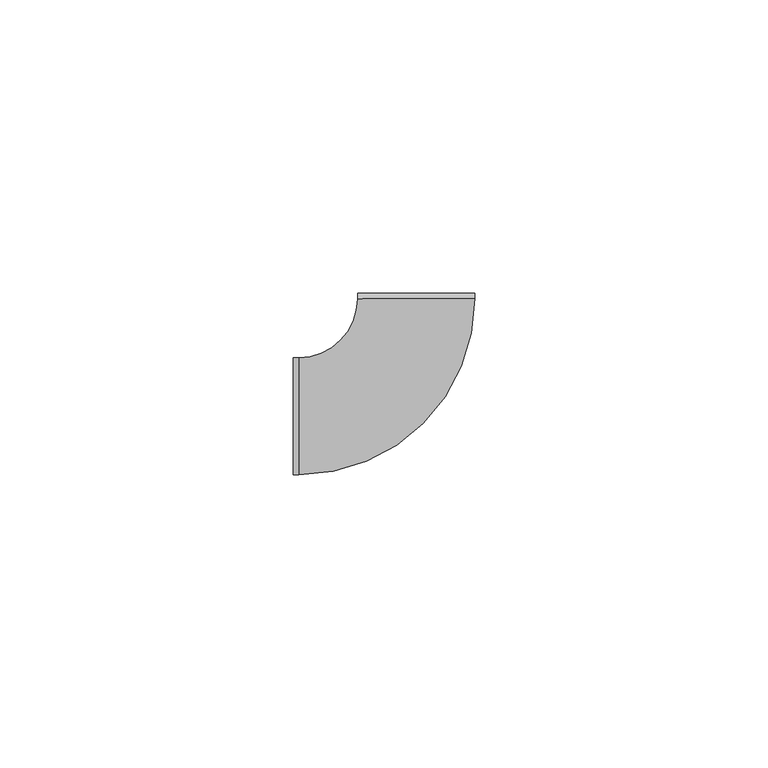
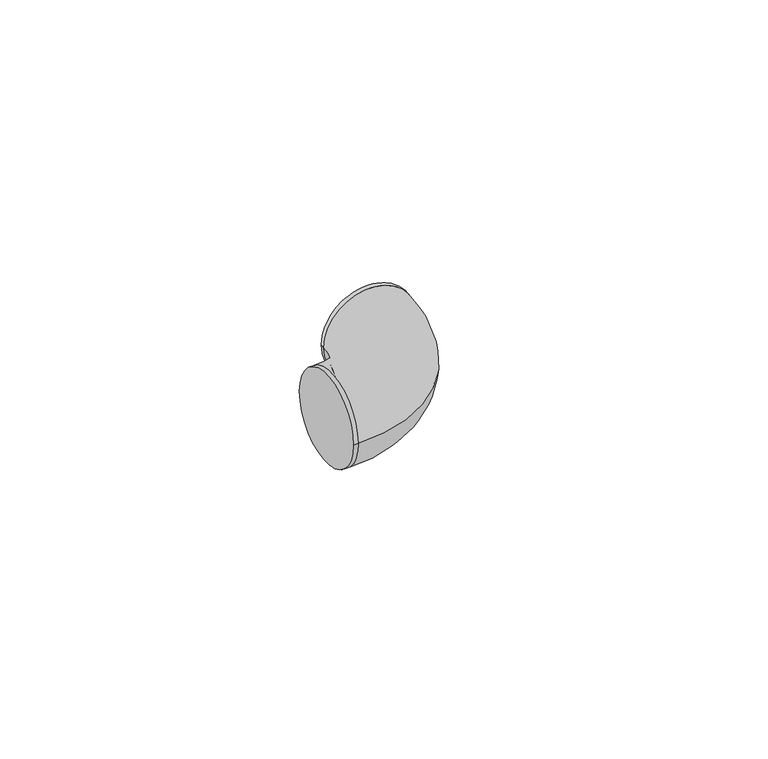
"""IFC4 building model written with IfcOpenShell, lengths in millimetres: cable carrier fitting geometry, ADSK_Поворот_Минимальный размер : Неспецифицируемый."""

from ifc_helpers import new_model, si_unit, point, frame, origin, place, context, project, spatial, circle_curve, ellipse_curve, trimmed, source, transform, mapped, element, save
from ifc_brep_helpers import plane_surface, cylinder_surface, revolved_surface, advanced_brep


def cable_carrier_fitting_42309ea9(model_context):
    return source(origin(), model_context, "Body", "AdvancedBrep", [
        advanced_brep(
        [(-21.0032112, -10.0, 0.0), (-21.0032112, 10.0, 0.0), (-20.0032112, -10.0, 0.0), (-20.0032112, 10.0, 0.0), (-10.0032114, 20.0016055, 0.0), (9.9967884, 20.0048165, 0.0), (9.9966278, 21.0048164, 0.0), (-10.0033719, 21.0016055, 0.0)],
        [
            (0, 1, circle_curve(frame((-21.0032112, 0.0, 0.0), z_axis=(-1.0, -4.92260399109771e-12, 0.0), x_axis=(-4.92260399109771e-12, 1.0, 0.0)), 10.0)),
            (1, 0, circle_curve(frame((-21.0032112, 0.0, 0.0), z_axis=(-1.0, -4.92260399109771e-12, 0.0), x_axis=(-4.92260399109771e-12, 1.0, 0.0)), 10.0)),
            (0, 2),
            (2, 3, circle_curve(frame((-20.0032112, 0.0, 0.0), z_axis=(-1.0, -4.92260399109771e-12, 0.0), x_axis=(-4.92260399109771e-12, 1.0, 0.0)), 10.0)),
            (3, 1),
            (3, 2, circle_curve(frame((-20.0032112, 0.0, 0.0), z_axis=(-1.0, -4.92260399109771e-12, 0.0), x_axis=(-4.92260399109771e-12, 1.0, 0.0)), 10.0)),
            (4, 3, circle_curve(frame((-20.0032112, 20.0, 0.0), z_axis=(0.0, 0.0, -1.0), x_axis=(0.0, -1.0, 0.0)), 10.0)),
            (2, 5, circle_curve(frame((-20.0032112, 20.0, 0.0), z_axis=(0.0, 0.0, 1.0), x_axis=(0.0, -1.0, 0.0)), 30.0)),
            (5, 4, circle_curve(frame((-0.0032115, 20.003211, 0.0), z_axis=(0.0001605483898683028, -0.9999999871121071, 0.0), x_axis=(-0.9999999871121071, -0.0001605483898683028, 0.0)), 10.0)),
            (4, 5, circle_curve(frame((-0.0032115, 20.003211, 0.0), z_axis=(0.0001605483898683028, -0.9999999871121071, 0.0), x_axis=(-0.9999999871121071, -0.0001605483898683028, 0.0)), 10.0)),
            (6, 7, circle_curve(frame((-0.003372, 21.003211, 0.0), z_axis=(-0.00016054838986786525, 0.9999999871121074, 0.0), x_axis=(-0.9999999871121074, -0.00016054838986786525, 0.0)), 10.0)),
            (7, 6, circle_curve(frame((-0.003372, 21.003211, 0.0), z_axis=(-0.00016054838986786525, 0.9999999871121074, 0.0), x_axis=(-0.9999999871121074, -0.00016054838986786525, 0.0)), 10.0)),
            (5, 6),
            (7, 4),
        ],
        [
            plane_surface(frame((-21.0032112, 0.0, 0.0), z_axis=(-1.0, -4.92260399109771e-12, 0.0), x_axis=(0.0, 0.0, 1.0))),
            cylinder_surface(frame((-21.0032112, 0.0, 0.0), z_axis=(-1.0, -4.92260399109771e-12, 0.0), x_axis=(-4.92260399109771e-12, 1.0, 0.0)), 10.0),
            revolved_surface(trimmed(ellipse_curve(frame((-20.0032112, 0.0, 0.0), z_axis=(-1.0, 0.0, 0.0), x_axis=(0.0, 1.0, 0.0)), 10.0, 10.0), [point((-20.0032112, -10.0, 0.0))], [point((-20.0032112, 10.0, 0.0))], True, "CARTESIAN"), (-20.0032112, 20.0, 0.0), (0.0, 0.0, 1.0)),
            revolved_surface(trimmed(ellipse_curve(frame((-20.0032112, 0.0, 0.0), z_axis=(-1.0, 0.0, 0.0), x_axis=(0.0, 1.0, 0.0)), 10.0, 10.0), [point((-20.0032112, 10.0, 0.0))], [point((-20.0032112, -10.0, 0.0))], True, "CARTESIAN"), (-20.0032112, 20.0, 0.0), (0.0, 0.0, 1.0)),
            plane_surface(frame((-0.003372, 21.003211, 0.0), z_axis=(-0.00016054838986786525, 0.9999999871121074, 0.0), x_axis=(0.0, 0.0, 1.0))),
            cylinder_surface(frame((-0.0032115, 20.003211, 0.0), z_axis=(0.00016054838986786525, -0.9999999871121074, 0.0), x_axis=(-0.9999999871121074, -0.00016054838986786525, 0.0)), 10.0),
        ],
        [
            (0, [[1, 2]]),
            (1, [[-1, 3, 4, 5]]),
            (1, [[-2, -5, 6, -3]]),
            (2, [[7, -4, 8, 9]]),
            (3, [[-8, -6, -7, 10]]),
            (4, [[11, 12]]),
            (5, [[-9, 13, -12, 14]]),
            (5, [[-10, -14, -11, -13]]),
        ],
    ),
    ])


if __name__ == "__main__":
    model = new_model("IFC4")
    model_context = context("Model", 3, world=origin())
    ifc_project = project(units=[si_unit("LENGTHUNIT", "METRE", prefix="MILLI")], contexts=[model_context])
    site = spatial("IfcSite", under=ifc_project)
    building = spatial("IfcBuilding", under=site)
    placement = place(None, origin())
    cable_carrier_fitting_shape = cable_carrier_fitting_42309ea9(model_context)
    element("IfcCableCarrierFitting", 1, ObjectType="ADSK_Поворот_Минимальный размер : Неспецифицируемый", at=placement, inside=building, context=model_context, shape_type="MappedRepresentation", body=[
        mapped(cable_carrier_fitting_shape, transform((0.0, 0.0, 0.0), x_axis=(1.0, 0.0, 0.0), y_axis=(0.0, 1.0, 0.0), z_axis=(0.0, 0.0, 1.0))),
    ])
    save(model, "model.ifc")
